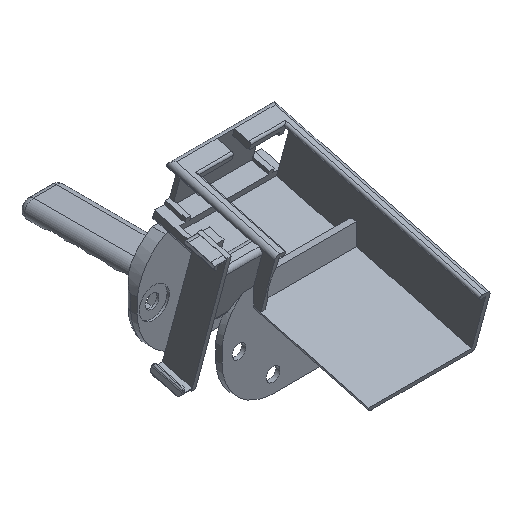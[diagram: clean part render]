
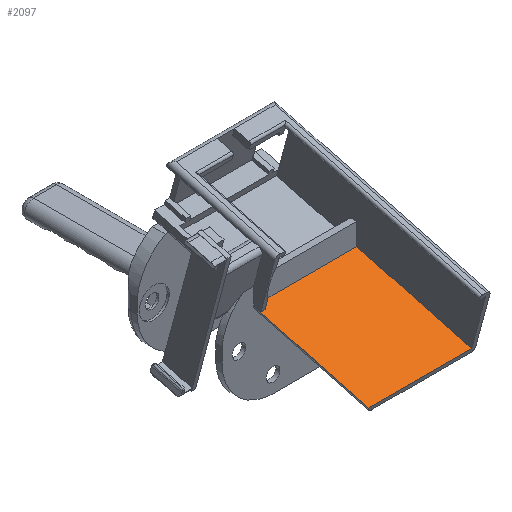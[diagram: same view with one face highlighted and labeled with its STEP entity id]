
A CAD part, isometric view. The second image highlights one B-rep face of the part: STEP entity #2097.
In plain terms, the highlighted planar face has unit normal (0, -0.259, 0.966).
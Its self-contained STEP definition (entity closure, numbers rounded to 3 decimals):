
#128 = CARTESIAN_POINT ( 'NONE',  ( -95.487, -11.988, 27.715 ) ) ;
#133 = ORIENTED_EDGE ( 'NONE', *, *, #648, .F. ) ;
#182 = DIRECTION ( 'NONE',  ( 0., 0.966, 0.259 ) ) ;
#235 = EDGE_CURVE ( 'NONE', #4394, #5941, #2153, .T. ) ;
#237 = VECTOR ( 'NONE', #1337, 1000. ) ;
#342 = DIRECTION ( 'NONE',  ( -1., 0., 0. ) ) ;
#480 = EDGE_LOOP ( 'NONE', ( #3268, #2531, #133, #2842, #2619, #933 ) ) ;
#648 = EDGE_CURVE ( 'NONE', #6770, #6184, #2940, .T. ) ;
#785 = CARTESIAN_POINT ( 'NONE',  ( -47.487, -15.302, 26.827 ) ) ;
#933 = ORIENTED_EDGE ( 'NONE', *, *, #5681, .F. ) ;
#992 = EDGE_CURVE ( 'NONE', #2847, #2212, #6739, .T. ) ;
#1307 = EDGE_CURVE ( 'NONE', #4394, #6184, #6288, .T. ) ;
#1337 = DIRECTION ( 'NONE',  ( -1., 0., 0. ) ) ;
#1587 = DIRECTION ( 'NONE',  ( 0., 0.966, 0.259 ) ) ;
#2097 = ADVANCED_FACE ( 'NONE', ( #2923 ), #5635, .F. ) ;
#2153 = LINE ( 'NONE', #4906, #3465 ) ;
#2212 = VERTEX_POINT ( 'NONE', #6864 ) ;
#2339 = CARTESIAN_POINT ( 'NONE',  ( -47.487, -26.893, 23.722 ) ) ;
#2531 = ORIENTED_EDGE ( 'NONE', *, *, #1307, .T. ) ;
#2619 = ORIENTED_EDGE ( 'NONE', *, *, #992, .F. ) ;
#2728 = CARTESIAN_POINT ( 'NONE',  ( -97.487, -65.53, 13.369 ) ) ;
#2842 = ORIENTED_EDGE ( 'NONE', *, *, #4490, .T. ) ;
#2847 = VERTEX_POINT ( 'NONE', #2728 ) ;
#2923 = FACE_OUTER_BOUND ( 'NONE', #480, .T. ) ;
#2940 = LINE ( 'NONE', #5149, #4280 ) ;
#3012 = VECTOR ( 'NONE', #1587, 1000. ) ;
#3268 = ORIENTED_EDGE ( 'NONE', *, *, #235, .F. ) ;
#3465 = VECTOR ( 'NONE', #7108, 1000. ) ;
#3612 = CARTESIAN_POINT ( 'NONE',  ( -49.487, -11.988, 27.715 ) ) ;
#4002 = CARTESIAN_POINT ( 'NONE',  ( -97.487, -26.893, 23.722 ) ) ;
#4045 = CARTESIAN_POINT ( 'NONE',  ( -97.487, -65.53, 13.369 ) ) ;
#4280 = VECTOR ( 'NONE', #182, 1000. ) ;
#4394 = VERTEX_POINT ( 'NONE', #3612 ) ;
#4439 = VECTOR ( 'NONE', #5207, 1000. ) ;
#4490 = EDGE_CURVE ( 'NONE', #6770, #2212, #5745, .T. ) ;
#4906 = CARTESIAN_POINT ( 'NONE',  ( -49.487, -26.893, 23.722 ) ) ;
#5088 = CARTESIAN_POINT ( 'NONE',  ( -95.487, -15.302, 26.827 ) ) ;
#5134 = DIRECTION ( 'NONE',  ( 1., 0., 0. ) ) ;
#5149 = CARTESIAN_POINT ( 'NONE',  ( -95.487, -26.893, 23.722 ) ) ;
#5207 = DIRECTION ( 'NONE',  ( -1., 0., 0. ) ) ;
#5244 = LINE ( 'NONE', #4045, #4439 ) ;
#5355 = VECTOR ( 'NONE', #342, 1000. ) ;
#5541 = CARTESIAN_POINT ( 'NONE',  ( -49.487, -65.53, 13.369 ) ) ;
#5570 = AXIS2_PLACEMENT_3D ( 'NONE', #2339, #6100, #5134 ) ;
#5635 = PLANE ( 'NONE',  #5570 ) ;
#5681 = EDGE_CURVE ( 'NONE', #5941, #2847, #5244, .T. ) ;
#5718 = CARTESIAN_POINT ( 'NONE',  ( -112.164, -11.988, 27.715 ) ) ;
#5745 = LINE ( 'NONE', #785, #5355 ) ;
#5941 = VERTEX_POINT ( 'NONE', #5541 ) ;
#6100 = DIRECTION ( 'NONE',  ( 0., 0.259, -0.966 ) ) ;
#6184 = VERTEX_POINT ( 'NONE', #128 ) ;
#6288 = LINE ( 'NONE', #5718, #237 ) ;
#6739 = LINE ( 'NONE', #4002, #3012 ) ;
#6770 = VERTEX_POINT ( 'NONE', #5088 ) ;
#6864 = CARTESIAN_POINT ( 'NONE',  ( -97.487, -15.302, 26.827 ) ) ;
#7108 = DIRECTION ( 'NONE',  ( 0., -0.966, -0.259 ) ) ;
